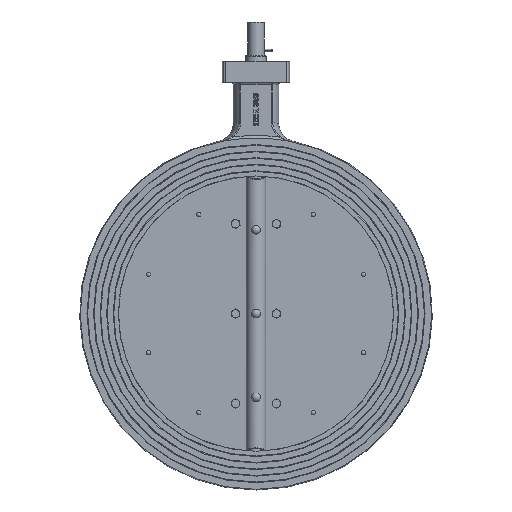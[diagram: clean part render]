
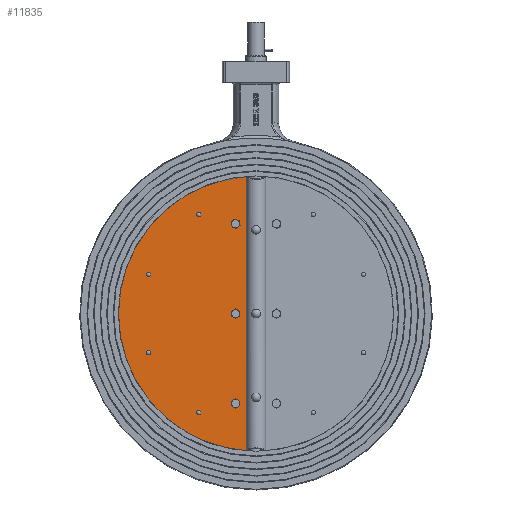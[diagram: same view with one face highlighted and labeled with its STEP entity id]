
A CAD part, top view. The second image highlights one B-rep face of the part: STEP entity #11835.
In plain terms, the highlighted planar face has unit normal (0, 0, 1).
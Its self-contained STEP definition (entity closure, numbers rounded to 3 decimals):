
#11734=CARTESIAN_POINT('',(0.,0.,1.5));
#11735=DIRECTION('',(0.0,0.0,-1.0));
#11736=DIRECTION('',(0.0,1.0,0.0));
#11737=AXIS2_PLACEMENT_3D('',#11734,#11735,#11736);
#11738=PLANE('',#11737);
#11739=CARTESIAN_POINT('',(-11.906,-167.828,1.5));
#11740=VERTEX_POINT('',#11739);
#11741=CARTESIAN_POINT('',(-11.906,167.828,1.5));
#11742=VERTEX_POINT('',#11741);
#11743=CARTESIAN_POINT('',(-11.906,-167.828,1.5));
#11744=DIRECTION('',(0.0,1.0,0.0));
#11745=VECTOR('',#11744,335.656);
#11746=LINE('',#11743,#11745);
#11747=EDGE_CURVE('',#11740,#11742,#11746,.T.);
#11748=ORIENTED_EDGE('',*,*,#11747,.T.);
#11749=CARTESIAN_POINT('',(0.,0.,1.5));
#11750=DIRECTION('',(0.0,0.0,-1.0));
#11751=DIRECTION('',(0.0,1.0,0.0));
#11752=AXIS2_PLACEMENT_3D('',#11749,#11750,#11751);
#11753=CIRCLE('',#11752,168.25);
#11754=EDGE_CURVE('',#11740,#11742,#11753,.T.);
#11755=ORIENTED_EDGE('',*,*,#11754,.F.);
#11756=EDGE_LOOP('',(#11748,#11755));
#11757=FACE_OUTER_BOUND('',#11756,.T.);
#11758=CARTESIAN_POINT('',(-70.,123.844,1.5));
#11759=VERTEX_POINT('',#11758);
#11760=CARTESIAN_POINT('',(-70.,121.244,1.5));
#11761=DIRECTION('',(0.0,0.0,-1.0));
#11762=DIRECTION('',(0.0,1.0,0.0));
#11763=AXIS2_PLACEMENT_3D('',#11760,#11761,#11762);
#11764=CIRCLE('',#11763,2.6);
#11765=EDGE_CURVE('',#11759,#11759,#11764,.T.);
#11766=ORIENTED_EDGE('',*,*,#11765,.T.);
#11767=EDGE_LOOP('',(#11766));
#11768=FACE_BOUND('',#11767,.T.);
#11769=CARTESIAN_POINT('',(-131.557,50.483,1.5));
#11770=VERTEX_POINT('',#11769);
#11771=CARTESIAN_POINT('',(-131.557,47.883,1.5));
#11772=DIRECTION('',(0.0,0.0,-1.0));
#11773=DIRECTION('',(0.0,1.0,0.0));
#11774=AXIS2_PLACEMENT_3D('',#11771,#11772,#11773);
#11775=CIRCLE('',#11774,2.6);
#11776=EDGE_CURVE('',#11770,#11770,#11775,.T.);
#11777=ORIENTED_EDGE('',*,*,#11776,.T.);
#11778=EDGE_LOOP('',(#11777));
#11779=FACE_BOUND('',#11778,.T.);
#11780=CARTESIAN_POINT('',(-131.557,-45.283,1.5));
#11781=VERTEX_POINT('',#11780);
#11782=CARTESIAN_POINT('',(-131.557,-47.883,1.5));
#11783=DIRECTION('',(0.0,0.0,-1.0));
#11784=DIRECTION('',(0.0,1.0,0.0));
#11785=AXIS2_PLACEMENT_3D('',#11782,#11783,#11784);
#11786=CIRCLE('',#11785,2.6);
#11787=EDGE_CURVE('',#11781,#11781,#11786,.T.);
#11788=ORIENTED_EDGE('',*,*,#11787,.T.);
#11789=EDGE_LOOP('',(#11788));
#11790=FACE_BOUND('',#11789,.T.);
#11791=CARTESIAN_POINT('',(-70.,-118.644,1.5));
#11792=VERTEX_POINT('',#11791);
#11793=CARTESIAN_POINT('',(-70.,-121.244,1.5));
#11794=DIRECTION('',(0.0,0.0,-1.0));
#11795=DIRECTION('',(0.0,1.0,0.0));
#11796=AXIS2_PLACEMENT_3D('',#11793,#11794,#11795);
#11797=CIRCLE('',#11796,2.6);
#11798=EDGE_CURVE('',#11792,#11792,#11797,.T.);
#11799=ORIENTED_EDGE('',*,*,#11798,.T.);
#11800=EDGE_LOOP('',(#11799));
#11801=FACE_BOUND('',#11800,.T.);
#11802=CARTESIAN_POINT('',(-25.,-105.56,1.5));
#11803=VERTEX_POINT('',#11802);
#11804=CARTESIAN_POINT('',(-25.,-110.,1.5));
#11805=DIRECTION('',(0.0,0.0,-1.0));
#11806=DIRECTION('',(0.0,1.0,0.0));
#11807=AXIS2_PLACEMENT_3D('',#11804,#11805,#11806);
#11808=CIRCLE('',#11807,4.44);
#11809=EDGE_CURVE('',#11803,#11803,#11808,.T.);
#11810=ORIENTED_EDGE('',*,*,#11809,.T.);
#11811=EDGE_LOOP('',(#11810));
#11812=FACE_BOUND('',#11811,.T.);
#11813=CARTESIAN_POINT('',(-25.,4.44,1.5));
#11814=VERTEX_POINT('',#11813);
#11815=CARTESIAN_POINT('',(-25.,0.,1.5));
#11816=DIRECTION('',(0.0,0.0,-1.0));
#11817=DIRECTION('',(0.0,1.0,0.0));
#11818=AXIS2_PLACEMENT_3D('',#11815,#11816,#11817);
#11819=CIRCLE('',#11818,4.44);
#11820=EDGE_CURVE('',#11814,#11814,#11819,.T.);
#11821=ORIENTED_EDGE('',*,*,#11820,.T.);
#11822=EDGE_LOOP('',(#11821));
#11823=FACE_BOUND('',#11822,.T.);
#11824=CARTESIAN_POINT('',(-26.006,114.325,1.5));
#11825=VERTEX_POINT('',#11824);
#11826=CARTESIAN_POINT('',(-25.,110.,1.5));
#11827=DIRECTION('',(0.,0.,-1.0));
#11828=DIRECTION('',(-0.227,0.974,0.));
#11829=AXIS2_PLACEMENT_3D('',#11826,#11827,#11828);
#11830=CIRCLE('',#11829,4.44);
#11831=EDGE_CURVE('',#11825,#11825,#11830,.T.);
#11832=ORIENTED_EDGE('',*,*,#11831,.T.);
#11833=EDGE_LOOP('',(#11832));
#11834=FACE_BOUND('',#11833,.T.);
#11835=ADVANCED_FACE('',(#11757,#11768,#11779,#11790,#11801,#11812,#11823,#11834),#11738,.F.);
